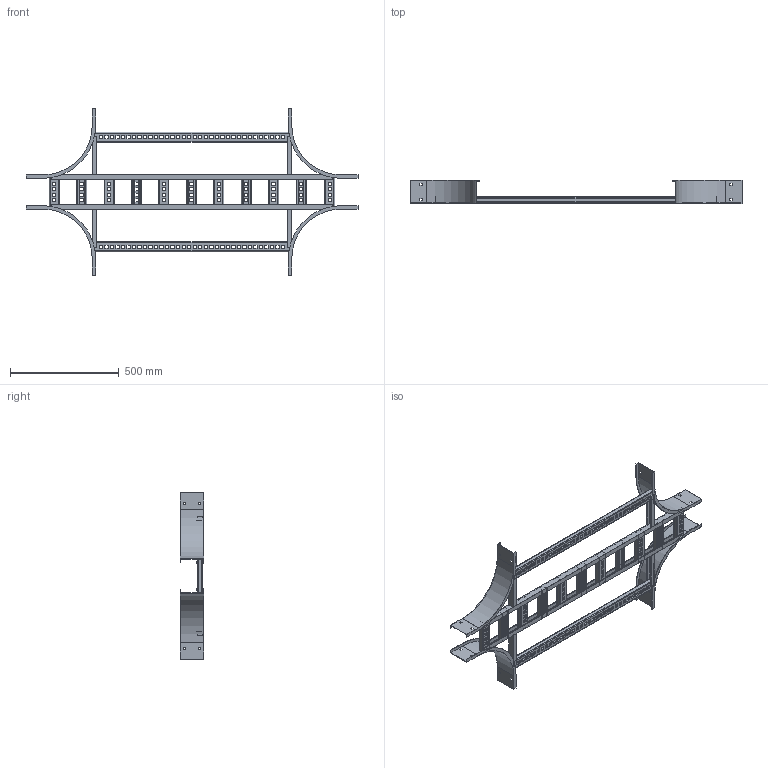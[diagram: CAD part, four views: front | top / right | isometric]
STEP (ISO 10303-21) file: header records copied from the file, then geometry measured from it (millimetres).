
FILE_DESCRIPTION((''),'2;1');
FILE_NAME('AUF40636VEX12_ASM','2010-02-03T',('erouzier'),(''),'PRO/ENGINEER BY PARAMETRIC TECHNOLOGY CORPORATION, 2008510','PRO/ENGINEER BY PARAMETRIC TECHNOLOGY CORPORATION, 2008510','');
FILE_SCHEMA(('CONFIG_CONTROL_DESIGN'));
Length unit declared in the file: inch
Products named in the file (20): CDS001319-4-90-9-I; CDS002159L6-P_AF11; CDS002159L6-P_AF12; CDS002159L6-P_AF13; CDS002159L6-P_AF14; CDS002159L6-P_AF20; CDS002159L6-P_AF15; CDS002159L6-P_AF16; CDS002159L6-P_AF17; CDS002159L6-P_AF19; CDS002159L6-P_AF21; CDS002159L6-P_AF18; CDS000495_GEN_AF18; CDS000495_GEN_AF19; CDS000495_GEN_AF22; CDS000495_GEN_AF23; CDS000495_GEN_AF20; CDS000495_GEN_AF21; CDS002159L36-P; AUF40636VEX12_ASM
Assembly tree (23 placements, depth 2):
  AUF40636VEX12_ASM
    CDS001319-4-90-9-I  x4
    CDS002159L6-P_AF11
    CDS002159L6-P_AF12
    CDS002159L6-P_AF13
    CDS002159L6-P_AF14
    CDS002159L6-P_AF20
    CDS002159L6-P_AF15
    CDS002159L6-P_AF16
    CDS002159L6-P_AF17
    CDS002159L6-P_AF19
    CDS002159L6-P_AF21
    CDS002159L6-P_AF18
    CDS000495_GEN_AF18
    CDS000495_GEN_AF19
    CDS000495_GEN_AF22
    CDS000495_GEN_AF23
    CDS000495_GEN_AF20
    CDS000495_GEN_AF21
    CDS002159L36-P  x2
Bounding box: 1528.57 x 106.05 x 766.57 mm (x, y, z)
Volume: 1630466.8 mm3; surface area: 1799988.9 mm2
Topology: 23 solids, 23 shells, 1482 faces, 4308 edges, 2872 vertices
Faces by surface type: plane 875, cylinder 607
Entity records: 36436 total; most frequent: CARTESIAN_POINT 6321, DIRECTION 6258, ORIENTED_EDGE 6240, EDGE_CURVE 3120, VECTOR 2224, LINE 2224, VERTEX_POINT 2080, AXIS2_PLACEMENT_3D 2017
